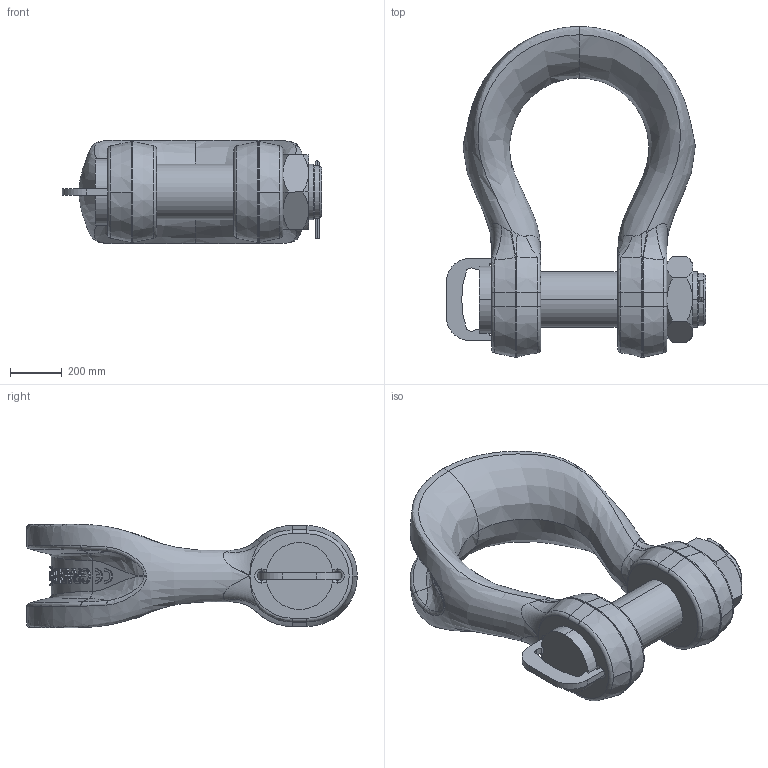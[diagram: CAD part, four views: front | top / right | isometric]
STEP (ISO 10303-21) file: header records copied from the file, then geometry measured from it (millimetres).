
FILE_DESCRIPTION(('STEP AP214'),'1');
FILE_NAME('slgpf0700.stp','2017-07-03T06:31:40',('TraceParts'),('TraceParts S.A.'),'Spatial InterOp 3D',' ',' ');
FILE_SCHEMA(('automotive_design'));
Length unit declared in the file: millimetre
Products named in the file (5): slgpf0700_1; slgpf0700_2; slgpf0700_3; slgpf0700_4; slgpf0700_5
Bounding box: 1007 x 1283.5 x 400 mm (x, y, z)
Volume: 145505134.2 mm3; surface area: 3818976.9 mm2
Topology: 5 solids, 5 shells, 505 faces, 1293 edges, 822 vertices
Faces by surface type: bspline 176, plane 170, cylinder 82, cone 41, torus 36
Entity records: 109769 total; most frequent: CARTESIAN_POINT 94597, ORIENTED_EDGE 2572, DIRECTION 1816, EDGE_CURVE 1286, VERTEX_POINT 822, AXIS2_PLACEMENT_3D 656, EDGE_LOOP 544, PRESENTATION_STYLE_ASSIGNMENT 515
